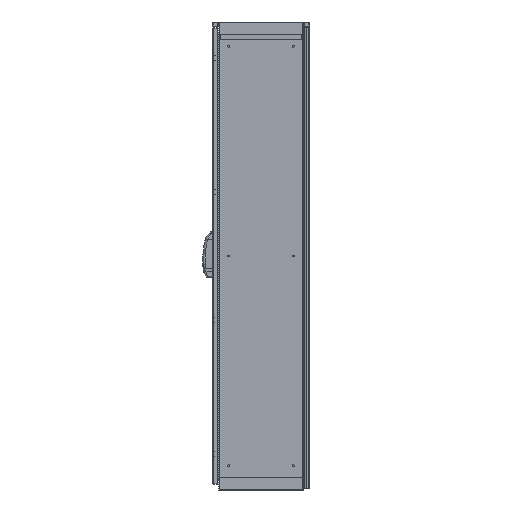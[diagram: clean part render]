
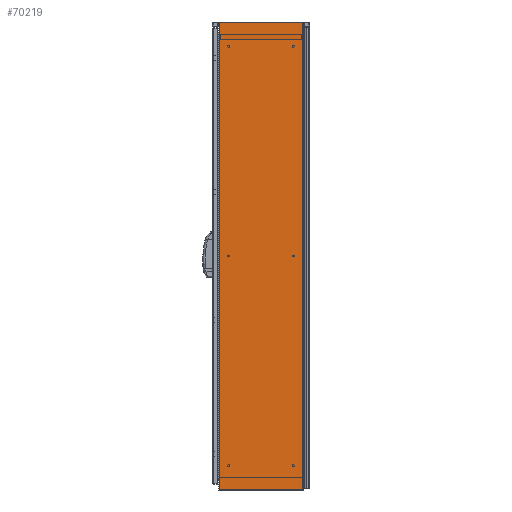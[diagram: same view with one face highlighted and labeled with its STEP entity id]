
A CAD part, left-side view. The second image highlights one B-rep face of the part: STEP entity #70219.
In plain terms, the highlighted planar face has unit normal (-1, 0, 0).
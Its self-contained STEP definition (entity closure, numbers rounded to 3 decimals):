
#876 = VERTEX_POINT ( 'NONE', #11863 ) ;
#1691 = VERTEX_POINT ( 'NONE', #4176 ) ;
#4176 = CARTESIAN_POINT ( 'NONE',  ( -300., -179.43, 2009. ) ) ;
#5407 = EDGE_LOOP ( 'NONE', ( #78026, #6853, #27758, #15914 ) ) ;
#6464 = EDGE_CURVE ( 'NONE', #17283, #1691, #44332, .T. ) ;
#6853 = ORIENTED_EDGE ( 'NONE', *, *, #14565, .T. ) ;
#7204 = AXIS2_PLACEMENT_3D ( 'NONE', #63784, #69536, #56059 ) ;
#9407 = DIRECTION ( 'NONE',  ( 0., -1., 0. ) ) ;
#9782 = LINE ( 'NONE', #35551, #22625 ) ;
#11863 = CARTESIAN_POINT ( 'NONE',  ( -300., -179.43, 0. ) ) ;
#12306 = FACE_OUTER_BOUND ( 'NONE', #5407, .T. ) ;
#14565 = EDGE_CURVE ( 'NONE', #876, #1691, #57485, .T. ) ;
#15914 = ORIENTED_EDGE ( 'NONE', *, *, #16283, .T. ) ;
#16283 = EDGE_CURVE ( 'NONE', #17283, #78854, #9782, .T. ) ;
#16295 = VECTOR ( 'NONE', #57011, 1000. ) ;
#17283 = VERTEX_POINT ( 'NONE', #43238 ) ;
#19879 = CARTESIAN_POINT ( 'NONE',  ( -300., -179.43, 2009. ) ) ;
#22625 = VECTOR ( 'NONE', #38956, 1000. ) ;
#27298 = CARTESIAN_POINT ( 'NONE',  ( -300., 179.43, 0. ) ) ;
#27758 = ORIENTED_EDGE ( 'NONE', *, *, #6464, .F. ) ;
#35551 = CARTESIAN_POINT ( 'NONE',  ( -300., 179.43, 2009. ) ) ;
#38024 = VECTOR ( 'NONE', #68968, 1000. ) ;
#38848 = PLANE ( 'NONE',  #7204 ) ;
#38956 = DIRECTION ( 'NONE',  ( 0., 0., -1. ) ) ;
#42519 = EDGE_CURVE ( 'NONE', #78854, #876, #46624, .T. ) ;
#43238 = CARTESIAN_POINT ( 'NONE',  ( -300., 179.43, 2009. ) ) ;
#44332 = LINE ( 'NONE', #76981, #16295 ) ;
#46522 = VECTOR ( 'NONE', #9407, 1000. ) ;
#46624 = LINE ( 'NONE', #65432, #46522 ) ;
#56059 = DIRECTION ( 'NONE',  ( 0., 0., -1. ) ) ;
#57011 = DIRECTION ( 'NONE',  ( 0., -1., 0. ) ) ;
#57485 = LINE ( 'NONE', #19879, #38024 ) ;
#63784 = CARTESIAN_POINT ( 'NONE',  ( -300., 183.5, 2009. ) ) ;
#65432 = CARTESIAN_POINT ( 'NONE',  ( -300., 183.5, 0. ) ) ;
#68968 = DIRECTION ( 'NONE',  ( 0., 0., 1. ) ) ;
#69536 = DIRECTION ( 'NONE',  ( 1., 0., 0. ) ) ;
#70219 = ADVANCED_FACE ( 'NONE', ( #12306 ), #38848, .F. ) ;
#76981 = CARTESIAN_POINT ( 'NONE',  ( -300., 183.5, 2009. ) ) ;
#78026 = ORIENTED_EDGE ( 'NONE', *, *, #42519, .T. ) ;
#78854 = VERTEX_POINT ( 'NONE', #27298 ) ;
